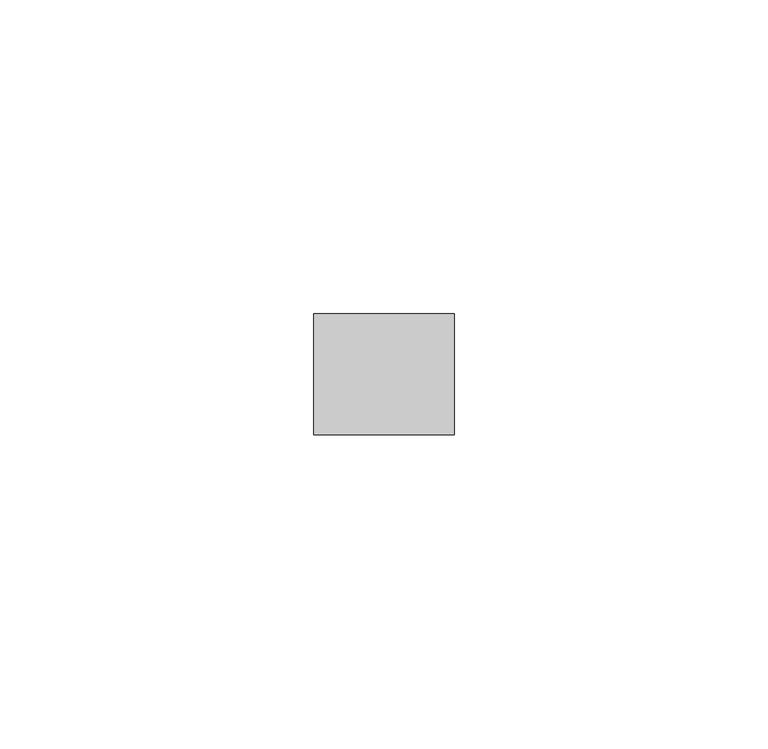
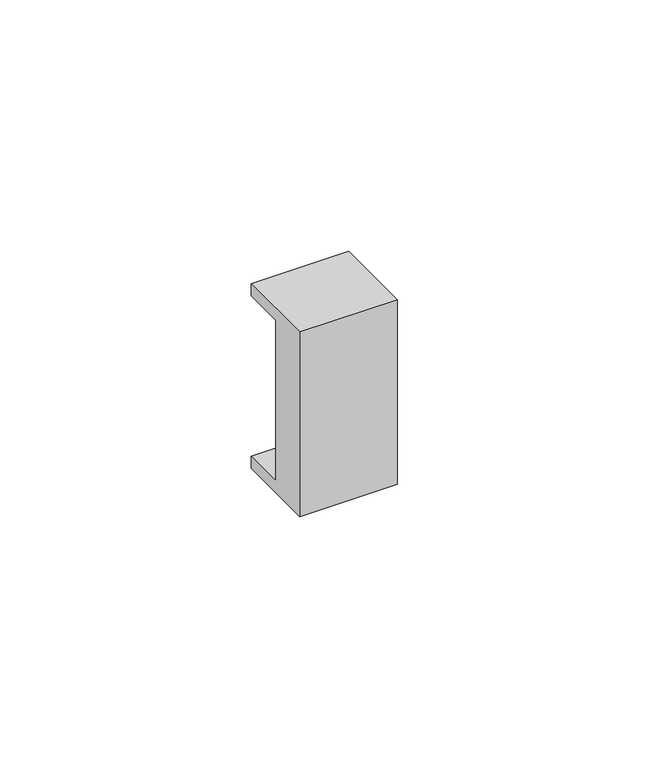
"""IFC4 building model written with IfcOpenShell, lengths in millimetres: proxy geometry."""

from ifc_helpers import new_model, si_unit, frame, origin, place, context, project, spatial, polyline, outline, extrude, source, transform, mapped, element, save


def electrical_fixtures_b631ac2f(model_context):
    return source(origin(), model_context, "Body", "SweptSolid", [
        extrude(outline(polyline([(12.3, 22.45), (12.3, 19.45), (2.5, 19.45), (2.5, -19.45), (12.3, -19.45), (12.3, -22.45), (-7.0, -22.45), (-7.0, 22.45), (12.3, 22.45)])), frame((0.0, 0.0, 0.0), z_axis=(1.0, 0.0, 0.0), x_axis=(0.0, 1.0, 0.0)), (0.0, 0.0, 1.0), 22.4),
    ])


if __name__ == "__main__":
    model = new_model("IFC4")
    model_context = context("Model", 3, world=origin())
    ifc_project = project(units=[si_unit("LENGTHUNIT", "METRE", prefix="MILLI")], contexts=[model_context])
    site = spatial("IfcSite", under=ifc_project)
    building = spatial("IfcBuilding", under=site)
    placement = place(None, origin())
    electrical_fixtures_shape = electrical_fixtures_b631ac2f(model_context)
    element("IfcBuildingElementProxy", 1, Name="Electrical Fixtures", at=placement, inside=building, context=model_context, shape_type="MappedRepresentation", body=[
        mapped(electrical_fixtures_shape, transform((0.0, 0.0, 0.0), x_axis=(1.0, 0.0, 0.0), y_axis=(0.0, 1.0, 0.0), z_axis=(0.0, 0.0, 1.0))),
    ])
    save(model, "model.ifc")
